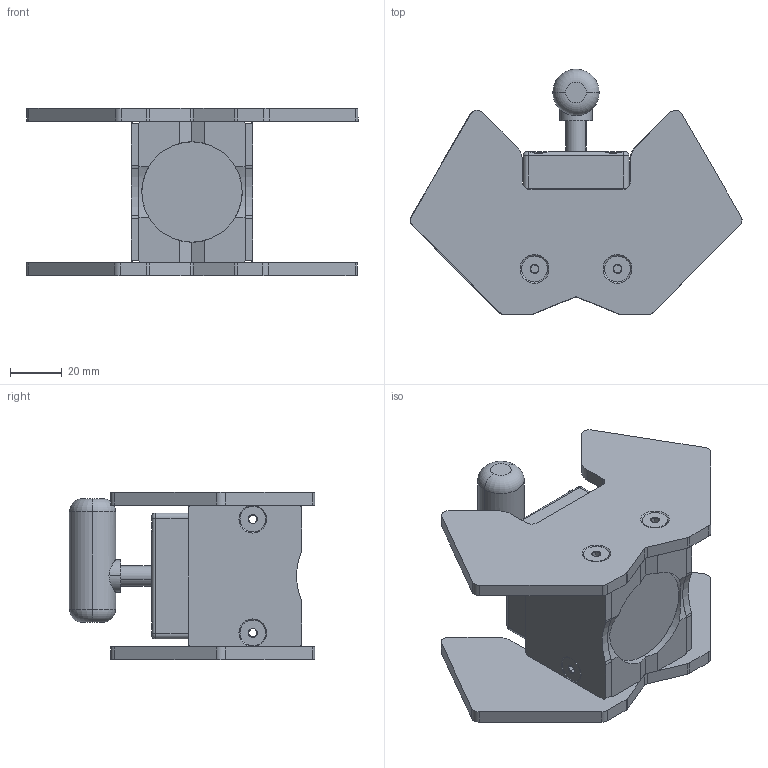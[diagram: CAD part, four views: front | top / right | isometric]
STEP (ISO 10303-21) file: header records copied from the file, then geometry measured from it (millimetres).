
FILE_DESCRIPTION (( 'STEP AP203' ), '1' );
FILE_NAME ('8000438.STEP', '2013-10-02T18:01:19', ( '' ), ( '' ), 'SwSTEP 2.0', 'SolidWorks 2010', '' );
FILE_SCHEMA (( 'CONFIG_CONTROL_DESIGN' ));
Length unit declared in the file: millimetre
Products named in the file (1): 8000438
Bounding box: 128.94 x 95.25 x 65 mm (x, y, z)
Surface area: 52934.8 mm2 (no closed solid volume)
Topology: 0 solids, 22 shells, 332 faces, 885 edges, 566 vertices
Faces by surface type: plane 147, cone 92, cylinder 85, torus 8
Entity records: 10914 total; most frequent: CARTESIAN_POINT 2656, DIRECTION 1786, ORIENTED_EDGE 1534, EDGE_CURVE 885, AXIS2_PLACEMENT_3D 680, VERTEX_POINT 566, LINE 426, VECTOR 426
